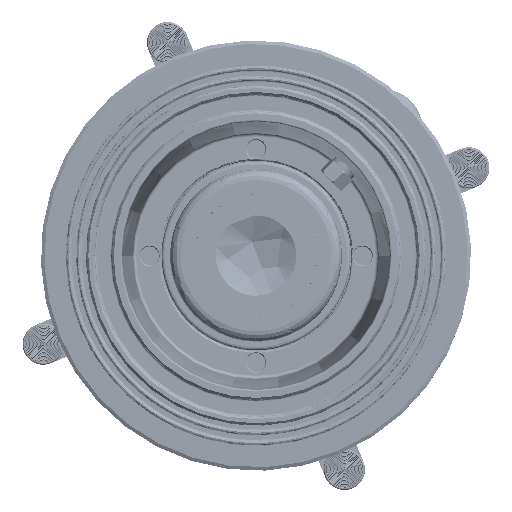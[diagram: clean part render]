
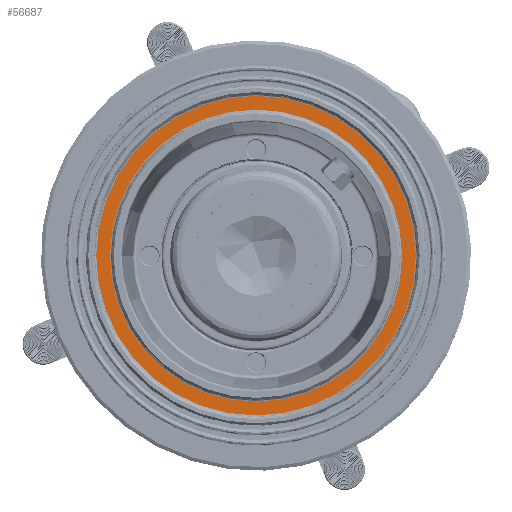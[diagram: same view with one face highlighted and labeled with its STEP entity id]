
A CAD part, top view. The second image highlights one B-rep face of the part: STEP entity #56687.
In plain terms, the highlighted planar face has unit normal (0, 0, 1).
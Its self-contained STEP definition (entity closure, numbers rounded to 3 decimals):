
#40042 = PLANE ( 'NONE',  #275925 ) ;
#56687 = ADVANCED_FACE ( 'NONE', ( #475498, #136818 ), #40042, .F. ) ;
#65298 = CARTESIAN_POINT ( 'NONE',  ( -42.5, 0., -4.5 ) ) ;
#81010 = DIRECTION ( 'NONE',  ( 0., 0., -1. ) ) ;
#84890 = CARTESIAN_POINT ( 'NONE',  ( 0., 0., -4.5 ) ) ;
#101661 = VERTEX_POINT ( 'NONE', #65298 ) ;
#102859 = CARTESIAN_POINT ( 'NONE',  ( 0., 0., -4.5 ) ) ;
#106982 = EDGE_CURVE ( 'NONE', #134288, #141597, #255489, .T. ) ;
#109452 = EDGE_CURVE ( 'NONE', #141597, #134288, #420812, .T. ) ;
#125952 = DIRECTION ( 'NONE',  ( 1., 0., 0. ) ) ;
#134288 = VERTEX_POINT ( 'NONE', #284911 ) ;
#136818 = FACE_OUTER_BOUND ( 'NONE', #285593, .T. ) ;
#140144 = DIRECTION ( 'NONE',  ( 0., 0., 1. ) ) ;
#141597 = VERTEX_POINT ( 'NONE', #211999 ) ;
#143831 = DIRECTION ( 'NONE',  ( 1., 0., 0. ) ) ;
#156958 = EDGE_CURVE ( 'NONE', #421075, #101661, #451476, .T. ) ;
#173569 = AXIS2_PLACEMENT_3D ( 'NONE', #384722, #140144, #425799 ) ;
#175859 = ORIENTED_EDGE ( 'NONE', *, *, #156958, .T. ) ;
#183558 = DIRECTION ( 'NONE',  ( 0., 0., -1. ) ) ;
#197893 = AXIS2_PLACEMENT_3D ( 'NONE', #84890, #370470, #125952 ) ;
#211999 = CARTESIAN_POINT ( 'NONE',  ( 46.5, 0., -4.5 ) ) ;
#238228 = AXIS2_PLACEMENT_3D ( 'NONE', #102859, #388461, #143831 ) ;
#244512 = CARTESIAN_POINT ( 'NONE',  ( 42.5, 0., -4.5 ) ) ;
#247963 = AXIS2_PLACEMENT_3D ( 'NONE', #428072, #183558, #469139 ) ;
#255489 = CIRCLE ( 'NONE', #173569, 46.5 ) ;
#257043 = CIRCLE ( 'NONE', #238228, 42.5 ) ;
#275925 = AXIS2_PLACEMENT_3D ( 'NONE', #323955, #81010, #366590 ) ;
#279974 = ORIENTED_EDGE ( 'NONE', *, *, #435537, .T. ) ;
#284911 = CARTESIAN_POINT ( 'NONE',  ( -46.5, 0., -4.5 ) ) ;
#285593 = EDGE_LOOP ( 'NONE', ( #472500, #360776 ) ) ;
#323955 = CARTESIAN_POINT ( 'NONE',  ( 0., 42., -4.5 ) ) ;
#360776 = ORIENTED_EDGE ( 'NONE', *, *, #106982, .T. ) ;
#366590 = DIRECTION ( 'NONE',  ( 1., 0., 0. ) ) ;
#370470 = DIRECTION ( 'NONE',  ( 0., 0., 1. ) ) ;
#384722 = CARTESIAN_POINT ( 'NONE',  ( 0., 0., -4.5 ) ) ;
#388461 = DIRECTION ( 'NONE',  ( 0., 0., -1. ) ) ;
#420812 = CIRCLE ( 'NONE', #197893, 46.5 ) ;
#421075 = VERTEX_POINT ( 'NONE', #244512 ) ;
#425799 = DIRECTION ( 'NONE',  ( 1., 0., 0. ) ) ;
#428072 = CARTESIAN_POINT ( 'NONE',  ( 0., 0., -4.5 ) ) ;
#435537 = EDGE_CURVE ( 'NONE', #101661, #421075, #257043, .T. ) ;
#451476 = CIRCLE ( 'NONE', #247963, 42.5 ) ;
#469139 = DIRECTION ( 'NONE',  ( 1., 0., 0. ) ) ;
#472500 = ORIENTED_EDGE ( 'NONE', *, *, #109452, .T. ) ;
#475498 = FACE_BOUND ( 'NONE', #479672, .T. ) ;
#479672 = EDGE_LOOP ( 'NONE', ( #175859, #279974 ) ) ;
